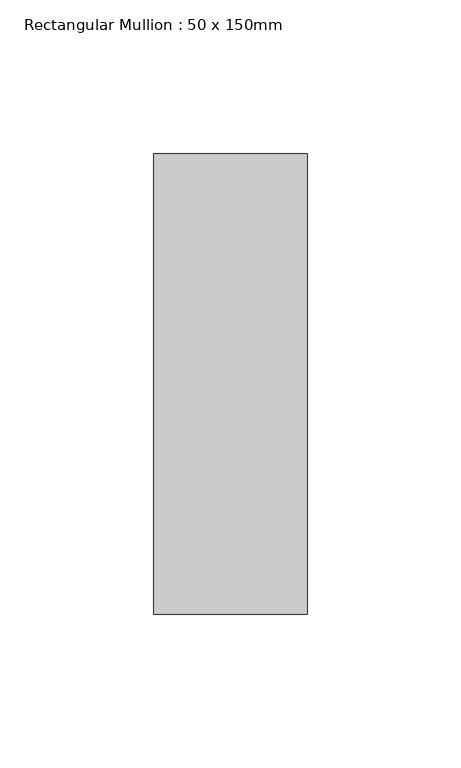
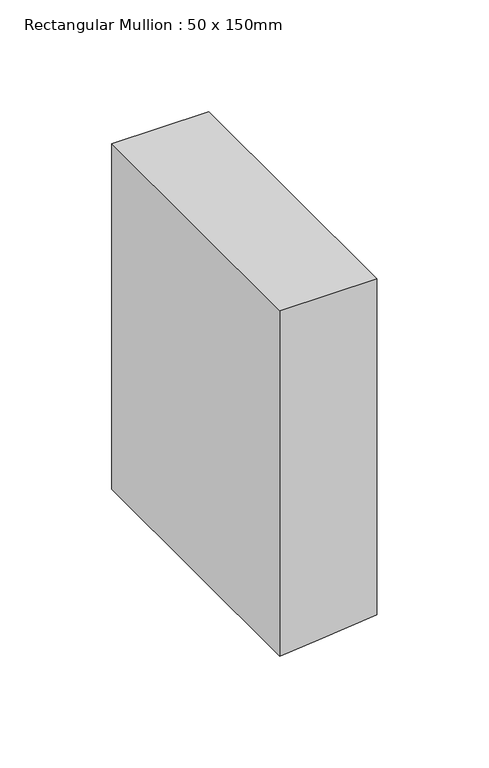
"""IFC4 building model written with IfcOpenShell, lengths in millimetres: member geometry, Rectangular Mullion : 50 x 150mm."""

from ifc_helpers import new_model, si_unit, frame, origin, place, context, project, spatial, polyline, outline, extrude, source, transform, mapped, element, save


def rectangular_mullion_50_x_150mm_05d15fa4(model_context):
    return source(origin(), model_context, "Body", "SweptSolid", [
        extrude(outline(polyline([(0.0, 25.0), (0.0, -25.0), (-188.3872082, -25.0), (-186.376441, -5.0022633), (-183.3597214, 25.0), (0.0, 25.0)])), frame((0.0, -75.0, 0.0), z_axis=(0.0, 1.0, 0.0), x_axis=(0.0, 0.0, 1.0)), (0.0, 0.0, 1.0), 150.0),
    ])


if __name__ == "__main__":
    model = new_model("IFC4")
    model_context = context("Model", 3, world=origin())
    ifc_project = project(units=[si_unit("LENGTHUNIT", "METRE", prefix="MILLI")], contexts=[model_context])
    site = spatial("IfcSite", under=ifc_project)
    building = spatial("IfcBuilding", under=site)
    placement = place(None, origin())
    rectangular_mullion_50_x_150mm_shape = rectangular_mullion_50_x_150mm_05d15fa4(model_context)
    element("IfcMember", 1, ObjectType="Rectangular Mullion : 50 x 150mm", at=placement, inside=building, context=model_context, shape_type="MappedRepresentation", body=[
        mapped(rectangular_mullion_50_x_150mm_shape, transform((0.0, 0.0, 0.0), x_axis=(1.0, 0.0, 0.0), y_axis=(0.0, 1.0, 0.0), z_axis=(0.0, 0.0, 1.0))),
    ])
    save(model, "model.ifc")
